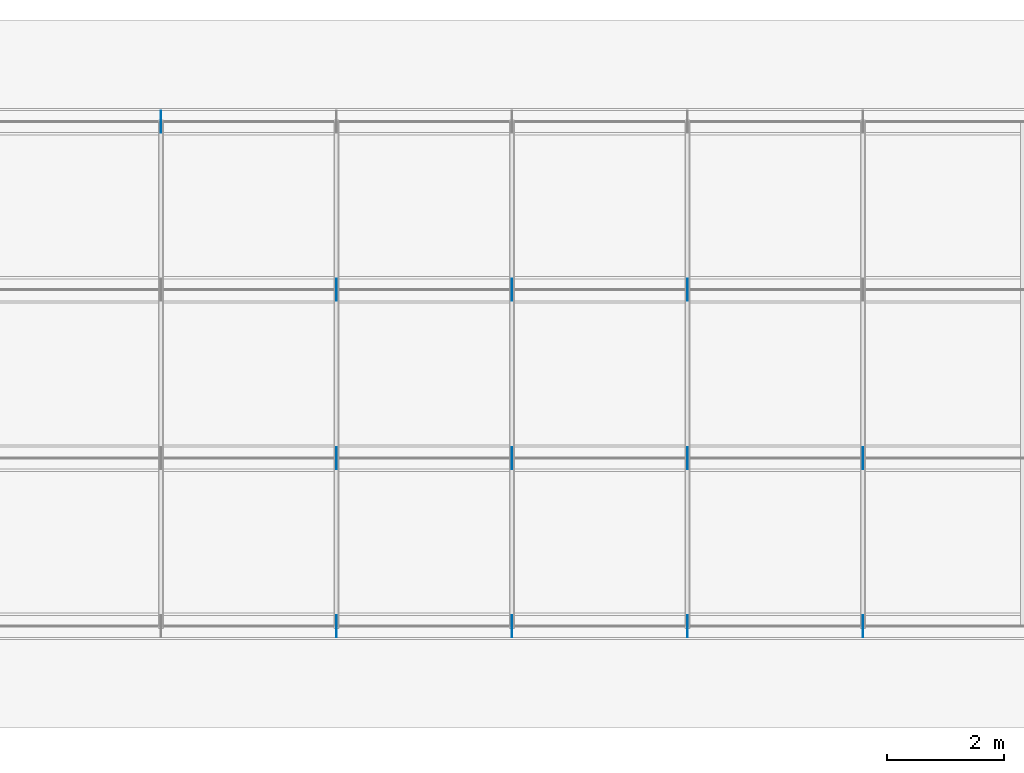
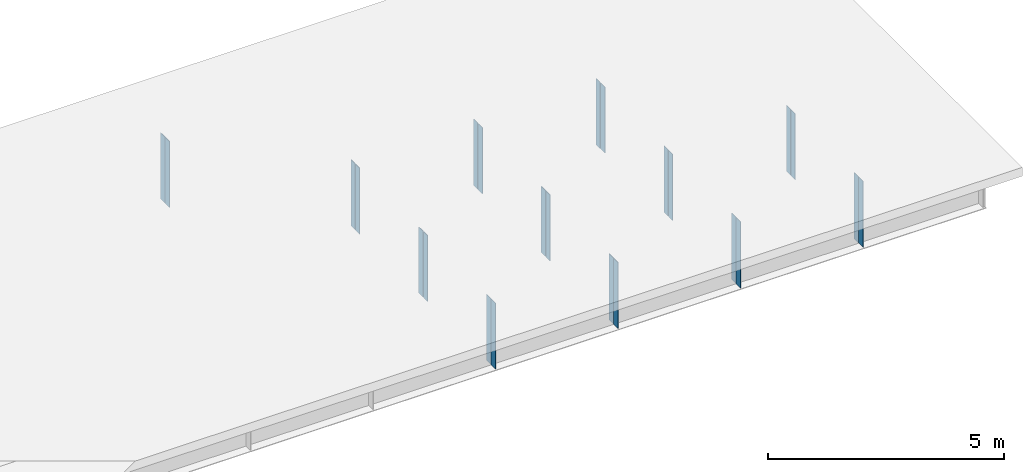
# One storey, part 10 of 11: 24 plates.
"""IFC4 building model written with IfcOpenShell, lengths in metres."""

from ifc_helpers import new_model, si_unit, frame, origin, origin_with_axes, origin_2d_with_axis, place, context, subcontext, project, spatial, rectangle, extrude, element, save


model = new_model("IFC4")

# Units and contexts
model_context = context("Model", 3, precision=1e-05, world=origin())
body_context = subcontext(model_context, "Body", "Model", "MODEL_VIEW")
ifc_project = project(units=[si_unit("LENGTHUNIT", "METRE"), si_unit("AREAUNIT", "SQUARE_METRE"), si_unit("VOLUMEUNIT", "CUBIC_METRE"), si_unit("PLANEANGLEUNIT", "RADIAN")], contexts=[model_context])

# Site, building, storey
site_placement = place(None, origin_with_axes())
site = spatial("IfcSite", under=ifc_project, at=site_placement, Name="Default Site")
building_placement = place(site_placement, origin_with_axes())
building = spatial("IfcBuilding", under=site, at=building_placement, Name="Bridge Structure")
storey_placement = place(building_placement, origin_with_axes())
storey = spatial("IfcBuildingStorey", under=building, at=storey_placement, Name="Superstructure")

# Plates
for number, where, z_axis, x_axis, name in (
    (1, (18.0, -4.21525, -0.856), (0.0, 0.0, 1.0), (1.0, 0.0, 0.0), "Intermediate Stiffener 1"),
    (2, (18.0, -4.40975, -0.856), (0.0, 0.0, 1.0), (1.0, 0.0, 0.0), "Intermediate Stiffener 1"),
    (3, (21.0, -4.21525, -0.856), (0.0, 0.0, 1.0), (1.0, 0.0, 0.0), "Intermediate Stiffener 1"),
    (4, (21.0, -4.40975, -0.856), (0.0, 0.0, 1.0), (1.0, 0.0, 0.0), "Intermediate Stiffener 1"),
    (5, (24.0, -4.21525, -0.856), (0.0, 0.0, 1.0), (1.0, 0.0, 0.0), "Intermediate Stiffener 1"),
    (6, (24.0, -4.40975, -0.856), (0.0, 0.0, 1.0), (1.0, 0.0, 0.0), "Intermediate Stiffener 1"),
    (7, (27.0, -4.21525, -0.856), (0.0, 0.0, 1.0), (1.0, 0.0, 0.0), "Intermediate Stiffener 1"),
    (8, (27.0, -4.40975, -0.856), (0.0, 0.0, 1.0), (1.0, 0.0, 0.0), "Intermediate Stiffener 1"),
    (9, (18.0, -1.34025, -0.856), (0.0, 0.0, 1.0), (1.0, 0.0, 0.0), "Intermediate Stiffener 2"),
    (10, (18.0, -1.53475, -0.856), (0.0, 0.0, 1.0), (1.0, 0.0, 0.0), "Intermediate Stiffener 2"),
    (11, (21.0, -1.34025, -0.856), (0.0, 0.0, 1.0), (1.0, 0.0, 0.0), "Intermediate Stiffener 2"),
    (12, (21.0, -1.53475, -0.856), (0.0, 0.0, 1.0), (1.0, 0.0, 0.0), "Intermediate Stiffener 2"),
    (13, (24.0, -1.34025, -0.856), (0.0, 0.0, 1.0), (1.0, 0.0, 0.0), "Intermediate Stiffener 2"),
    (14, (24.0, -1.53475, -0.856), (0.0, 0.0, 1.0), (1.0, 0.0, 0.0), "Intermediate Stiffener 2"),
    (15, (27.0, -1.34025, -0.856), (0.0, 0.0, 1.0), (1.0, 0.0, 0.0), "Intermediate Stiffener 2"),
    (16, (27.0, -1.53475, -0.856), (0.0, 0.0, 1.0), (1.0, 0.0, 0.0), "Intermediate Stiffener 2"),
    (17, (18.0, 1.53475, -0.856), (0.0, 0.0, 1.0), (1.0, 0.0, 0.0), "Intermediate Stiffener 3"),
    (18, (18.0, 1.34025, -0.856), (0.0, 0.0, 1.0), (1.0, 0.0, 0.0), "Intermediate Stiffener 3"),
    (19, (21.0, 1.53475, -0.856), (0.0, 0.0, 1.0), (1.0, 0.0, 0.0), "Intermediate Stiffener 3"),
    (20, (21.0, 1.34025, -0.856), (0.0, 0.0, 1.0), (1.0, 0.0, 0.0), "Intermediate Stiffener 3"),
    (21, (24.0, 1.53475, -0.856), (0.0, 0.0, 1.0), (1.0, 0.0, 0.0), "Intermediate Stiffener 3"),
    (22, (24.0, 1.34025, -0.856), (0.0, 0.0, 1.0), (1.0, 0.0, 0.0), "Intermediate Stiffener 3"),
    (23, (15.0, 4.40975, -0.856), (0.0, 0.0, 1.0), (1.0, 0.0, 0.0), "Intermediate Stiffener 4"),
    (24, (15.0, 4.21525, -0.856), (0.0, 0.0, 1.0), (1.0, 0.0, 0.0), "Intermediate Stiffener 4"),
):
    element("IfcPlate", number, at=place(storey_placement, frame(where, z_axis=z_axis, x_axis=x_axis)), inside=storey, Name=name, context=body_context, shape_type="SweptSolid", body=[
        extrude(rectangle(XDim=0.012, YDim=0.1805, at=origin_2d_with_axis()), origin_with_axes(), (0.0, 0.0, 1.0), 1.712),
    ])

save(model, "model.ifc")
